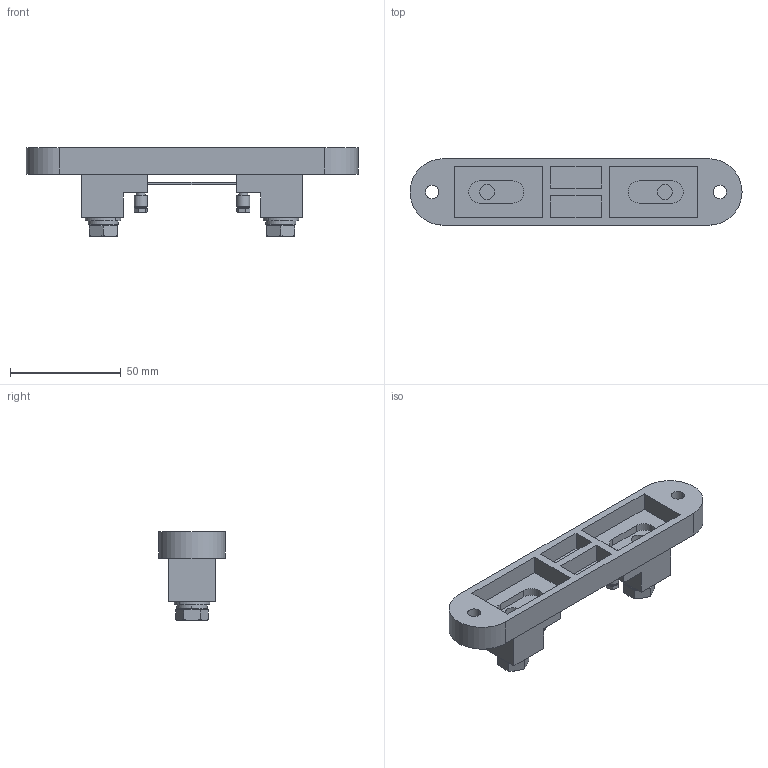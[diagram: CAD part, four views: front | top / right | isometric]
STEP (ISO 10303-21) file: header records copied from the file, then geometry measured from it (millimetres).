
FILE_DESCRIPTION (( 'STEP AP203' ), '1' );
FILE_NAME ('RTCS0050B075Z00.STEP', '2023-12-13T07:15:52', ( 'meks@163.com' ), ( '' ), 'SwSTEP 2.0', 'SolidWorks 2020', '' );
FILE_SCHEMA (( 'CONFIG_CONTROL_DESIGN' ));
Length unit declared in the file: millimetre
Products named in the file (9): hexagon head bolts-full thread gb_GB_FASTENER_BOLT_STBAB A M8X20-S; 價釱ㄗ13ㄘ_1; single coil lock washers light type gb_GB_FASTENER_WASHER_SSWL 3; hexagon head bolts-full thread gb_GB_FASTENER_BOLT_STBAB A M3X6-S; 萇郯极_1; plain washers--product grade c gb_GB_FASTENER_WASHER_SMWC 8; single coil lock washers light type gb_GB_FASTENER_WASHER_SSWL 8; RTCS0050B075Z00; RCBS 200菁釱
Assembly tree (14 placements, depth 2):
  RTCS0050B075Z00
    價釱ㄗ13ㄘ_1  x2
    hexagon head bolts-full thread gb_GB_FASTENER_BOLT_STBAB A M3X6-S  x2
    single coil lock washers light type gb_GB_FASTENER_WASHER_SSWL 3  x2
    hexagon head bolts-full thread gb_GB_FASTENER_BOLT_STBAB A M8X20-S  x2
    plain washers--product grade c gb_GB_FASTENER_WASHER_SMWC 8  x2
    single coil lock washers light type gb_GB_FASTENER_WASHER_SSWL 8  x2
    萇郯极_1
    RCBS 200菁釱
Bounding box: 150 x 30 x 40.15 mm (x, y, z)
Volume: 51714.1 mm3; surface area: 28918.4 mm2
Topology: 14 solids, 14 shells, 767 faces, 1737 edges, 1012 vertices
Faces by surface type: cone 388, cylinder 233, plane 146
Entity records: 12598 total; most frequent: DIRECTION 2165, CARTESIAN_POINT 2051, ORIENTED_EDGE 1862, EDGE_CURVE 931, AXIS2_PLACEMENT_3D 855, VERTEX_POINT 549, VECTOR 455, LINE 455
